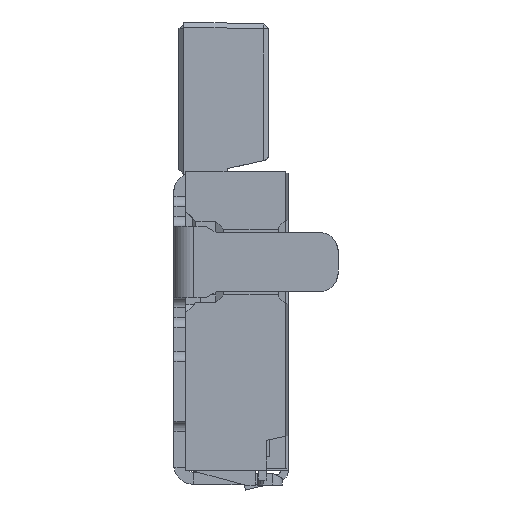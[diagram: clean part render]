
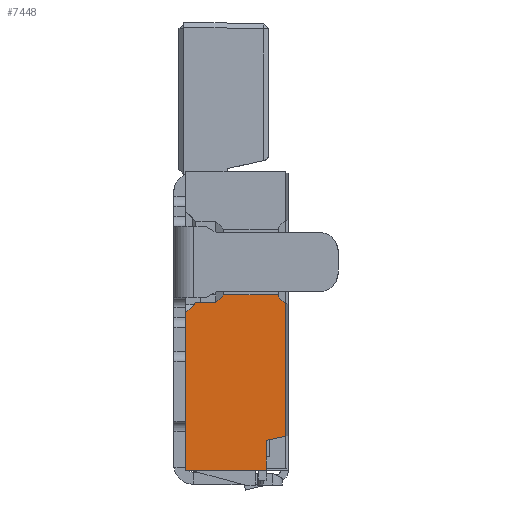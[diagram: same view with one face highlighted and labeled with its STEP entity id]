
A CAD part, left-side view. The second image highlights one B-rep face of the part: STEP entity #7448.
In plain terms, the highlighted planar face has unit normal (-1, 0, 0).
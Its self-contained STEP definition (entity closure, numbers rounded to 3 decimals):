
#5829 = CARTESIAN_POINT ( 'NONE',  ( -4.525, 0.224, -1.526 ) ) ;
#5830 = DIRECTION ( 'NONE',  ( 0., 0.976, -0.218 ) ) ;
#5831 = VECTOR ( 'NONE', #5830, 1000. ) ;
#5837 = LINE ( 'NONE', #5843, #5831 ) ;
#5843 = CARTESIAN_POINT ( 'NONE',  ( -4.525, 0.03, -1.483 ) ) ;
#5891 = DIRECTION ( 'NONE',  ( 0., -1., 0. ) ) ;
#5892 = VECTOR ( 'NONE', #5891, 1000. ) ;
#5893 = CARTESIAN_POINT ( 'NONE',  ( -4.525, 0.03, -0.146 ) ) ;
#5912 = CARTESIAN_POINT ( 'NONE',  ( -4.525, 0.93, -0.146 ) ) ;
#5998 = LINE ( 'NONE', #5893, #5892 ) ;
#6319 = EDGE_CURVE ( 'NONE', #14702, #6506, #15119, .T. ) ;
#6506 = VERTEX_POINT ( 'NONE', #15114 ) ;
#6536 = VERTEX_POINT ( 'NONE', #15073 ) ;
#6538 = EDGE_CURVE ( 'NONE', #6536, #9871, #15069, .T. ) ;
#6822 = VERTEX_POINT ( 'NONE', #16067 ) ;
#6824 = EDGE_CURVE ( 'NONE', #6822, #14686, #16065, .T. ) ;
#7445 = VERTEX_POINT ( 'NONE', #20672 ) ;
#7447 = EDGE_CURVE ( 'NONE', #7445, #6536, #20697, .T. ) ;
#7448 = ADVANCED_FACE ( 'NONE', ( #20688 ), #20704, .F. ) ;
#7449 = EDGE_LOOP ( 'NONE', ( #7450, #7451, #7452, #7453, #7454, #7455, #7458, #7460, #7461, #7462, #7463 ) ) ;
#7450 = ORIENTED_EDGE ( 'NONE', *, *, #6319, .F. ) ;
#7451 = ORIENTED_EDGE ( 'NONE', *, *, #14701, .F. ) ;
#7452 = ORIENTED_EDGE ( 'NONE', *, *, #9882, .F. ) ;
#7453 = ORIENTED_EDGE ( 'NONE', *, *, #6538, .F. ) ;
#7454 = ORIENTED_EDGE ( 'NONE', *, *, #7447, .F. ) ;
#7455 = ORIENTED_EDGE ( 'NONE', *, *, #7456, .T. ) ;
#7456 = EDGE_CURVE ( 'NONE', #7445, #7457, #20708, .T. ) ;
#7457 = VERTEX_POINT ( 'NONE', #20714 ) ;
#7458 = ORIENTED_EDGE ( 'NONE', *, *, #7459, .T. ) ;
#7459 = EDGE_CURVE ( 'NONE', #7457, #9857, #20712, .T. ) ;
#7460 = ORIENTED_EDGE ( 'NONE', *, *, #9856, .F. ) ;
#7461 = ORIENTED_EDGE ( 'NONE', *, *, #14685, .F. ) ;
#7462 = ORIENTED_EDGE ( 'NONE', *, *, #6824, .F. ) ;
#7463 = ORIENTED_EDGE ( 'NONE', *, *, #7464, .T. ) ;
#7464 = EDGE_CURVE ( 'NONE', #6822, #6506, #20718, .T. ) ;
#9856 = EDGE_CURVE ( 'NONE', #14687, #9857, #5837, .T. ) ;
#9857 = VERTEX_POINT ( 'NONE', #5829 ) ;
#9871 = VERTEX_POINT ( 'NONE', #5912 ) ;
#9882 = EDGE_CURVE ( 'NONE', #9871, #14697, #5998, .T. ) ;
#14685 = EDGE_CURVE ( 'NONE', #14686, #14687, #30036, .T. ) ;
#14686 = VERTEX_POINT ( 'NONE', #30144 ) ;
#14687 = VERTEX_POINT ( 'NONE', #29850 ) ;
#14697 = VERTEX_POINT ( 'NONE', #29893 ) ;
#14701 = EDGE_CURVE ( 'NONE', #14697, #14702, #29879, .T. ) ;
#14702 = VERTEX_POINT ( 'NONE', #29872 ) ;
#15066 = DIRECTION ( 'NONE',  ( 0., -0.707, 0.707 ) ) ;
#15067 = VECTOR ( 'NONE', #15066, 1000. ) ;
#15068 = CARTESIAN_POINT ( 'NONE',  ( -4.525, 1.03, -0.246 ) ) ;
#15069 = LINE ( 'NONE', #15068, #15067 ) ;
#15073 = CARTESIAN_POINT ( 'NONE',  ( -4.525, 1.03, -0.246 ) ) ;
#15114 = CARTESIAN_POINT ( 'NONE',  ( -4.525, 0.1, -0.066 ) ) ;
#15116 = DIRECTION ( 'NONE',  ( 0., -1., 0. ) ) ;
#15117 = VECTOR ( 'NONE', #15116, 1000. ) ;
#15118 = CARTESIAN_POINT ( 'NONE',  ( -4.525, 0.03, -0.066 ) ) ;
#15119 = LINE ( 'NONE', #15118, #15117 ) ;
#16062 = DIRECTION ( 'NONE',  ( 0., -0.707, -0.707 ) ) ;
#16063 = VECTOR ( 'NONE', #16062, 1000. ) ;
#16064 = CARTESIAN_POINT ( 'NONE',  ( -4.525, 0.1, -0.086 ) ) ;
#16065 = LINE ( 'NONE', #16064, #16063 ) ;
#16067 = CARTESIAN_POINT ( 'NONE',  ( -4.525, 0.1, -0.086 ) ) ;
#20672 = CARTESIAN_POINT ( 'NONE',  ( -4.525, 1.03, -1.826 ) ) ;
#20679 = DIRECTION ( 'NONE',  ( 0., 0., 1. ) ) ;
#20680 = VECTOR ( 'NONE', #20679, 1000. ) ;
#20688 = FACE_OUTER_BOUND ( 'NONE', #7449, .T. ) ;
#20696 = CARTESIAN_POINT ( 'NONE',  ( -4.525, 1.03, -0.066 ) ) ;
#20697 = LINE ( 'NONE', #20696, #20680 ) ;
#20703 = CARTESIAN_POINT ( 'NONE',  ( -4.525, 0.03, -0.066 ) ) ;
#20704 = PLANE ( 'NONE',  #20705 ) ;
#20705 = AXIS2_PLACEMENT_3D ( 'NONE', #20703, #20710, #20709 ) ;
#20706 = VECTOR ( 'NONE', #20715, 1000. ) ;
#20707 = CARTESIAN_POINT ( 'NONE',  ( -4.525, 0.224, -1.826 ) ) ;
#20708 = LINE ( 'NONE', #20707, #20706 ) ;
#20709 = DIRECTION ( 'NONE',  ( 0., -1., 0. ) ) ;
#20710 = DIRECTION ( 'NONE',  ( 1., 0., 0. ) ) ;
#20711 = CARTESIAN_POINT ( 'NONE',  ( -4.525, 0.224, -1.526 ) ) ;
#20712 = LINE ( 'NONE', #20711, #20721 ) ;
#20714 = CARTESIAN_POINT ( 'NONE',  ( -4.525, 0.224, -1.826 ) ) ;
#20715 = DIRECTION ( 'NONE',  ( 0., -1., 0. ) ) ;
#20717 = DIRECTION ( 'NONE',  ( 0., 0., 1. ) ) ;
#20718 = LINE ( 'NONE', #20722, #20719 ) ;
#20719 = VECTOR ( 'NONE', #20723, 1000. ) ;
#20721 = VECTOR ( 'NONE', #20717, 1000. ) ;
#20722 = CARTESIAN_POINT ( 'NONE',  ( -4.525, 0.1, 0.614 ) ) ;
#20723 = DIRECTION ( 'NONE',  ( 0., 0., 1. ) ) ;
#29850 = CARTESIAN_POINT ( 'NONE',  ( -4.525, 0.03, -1.483 ) ) ;
#29872 = CARTESIAN_POINT ( 'NONE',  ( -4.525, 0.65, -0.066 ) ) ;
#29874 = DIRECTION ( 'NONE',  ( 0., -0.707, 0.707 ) ) ;
#29875 = VECTOR ( 'NONE', #29874, 1000. ) ;
#29877 = CARTESIAN_POINT ( 'NONE',  ( -4.525, 0.73, -0.146 ) ) ;
#29879 = LINE ( 'NONE', #29877, #29875 ) ;
#29893 = CARTESIAN_POINT ( 'NONE',  ( -4.525, 0.73, -0.146 ) ) ;
#30034 = CARTESIAN_POINT ( 'NONE',  ( -4.525, 0.03, -0.066 ) ) ;
#30036 = LINE ( 'NONE', #30034, #30146 ) ;
#30144 = CARTESIAN_POINT ( 'NONE',  ( -4.525, 0.03, -0.156 ) ) ;
#30145 = DIRECTION ( 'NONE',  ( 0., 0., -1. ) ) ;
#30146 = VECTOR ( 'NONE', #30145, 1000. ) ;
